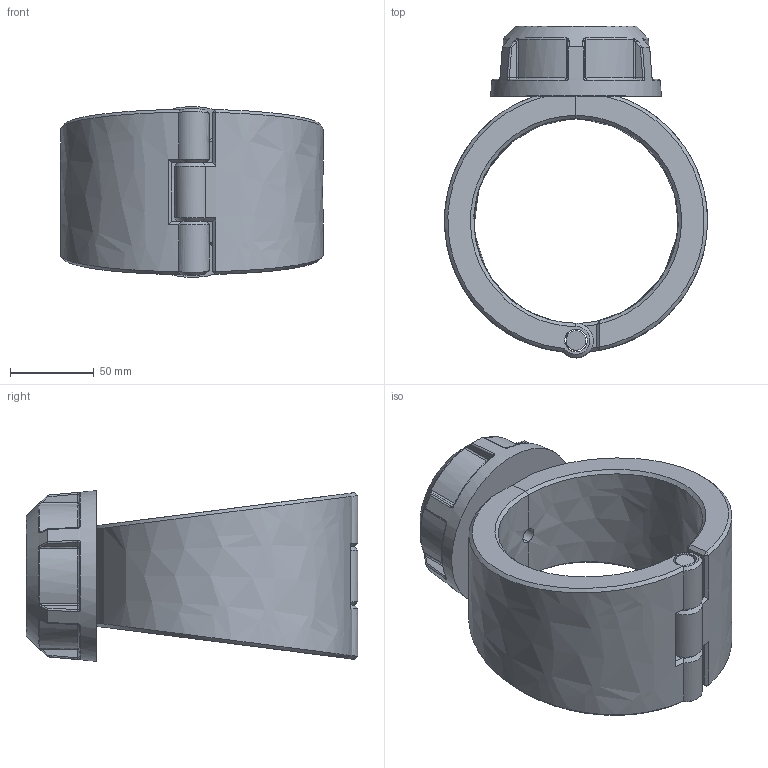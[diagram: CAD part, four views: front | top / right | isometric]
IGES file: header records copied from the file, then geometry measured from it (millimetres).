
Global section: file name: 163000122005; native system: Autodesk Inventor 2019; preprocessor: unknown; author: comp2; date: 20220203.114811; units: millimetre
Bounding box: 156.99 x 198 x 101.86 mm (x, y, z)
Volume: 845643 mm3; surface area: 124324.5 mm2
Topology: 4 solids, 4 shells, 203 faces, 486 edges, 293 vertices
Faces by surface type: bspline 203
